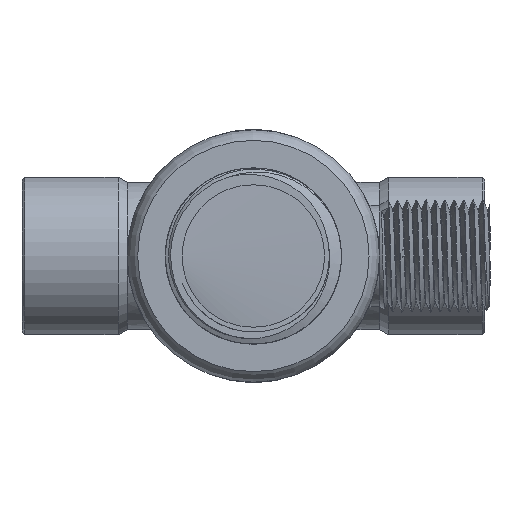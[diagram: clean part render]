
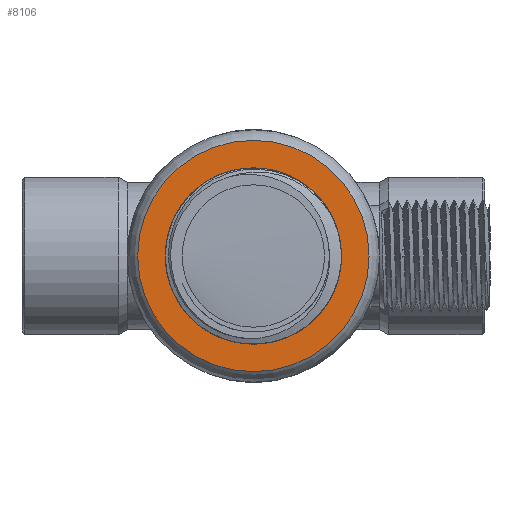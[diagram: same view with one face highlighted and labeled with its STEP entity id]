
A CAD part, left-side view. The second image highlights one B-rep face of the part: STEP entity #8106.
In plain terms, the highlighted planar face has unit normal (-1, 0, 0).
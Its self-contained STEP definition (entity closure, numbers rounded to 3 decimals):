
#253=PLANE('',#8656);
#318=FACE_BOUND('',#1384,.T.);
#324=CIRCLE('',#8157,16.75);
#325=CIRCLE('',#8158,16.75);
#348=CIRCLE('',#8294,22.);
#349=CIRCLE('',#8295,22.);
#904=FACE_OUTER_BOUND('',#1383,.T.);
#1383=EDGE_LOOP('',(#7462,#7463));
#1384=EDGE_LOOP('',(#7464,#7465));
#3049=VERTEX_POINT('',#11169);
#3050=VERTEX_POINT('',#11171);
#3290=VERTEX_POINT('',#16454);
#3291=VERTEX_POINT('',#16456);
#3875=EDGE_CURVE('',#3049,#3050,#324,.T.);
#3876=EDGE_CURVE('',#3050,#3049,#325,.T.);
#4223=EDGE_CURVE('',#3291,#3290,#348,.T.);
#4224=EDGE_CURVE('',#3290,#3291,#349,.T.);
#7462=ORIENTED_EDGE('',*,*,#4223,.T.);
#7463=ORIENTED_EDGE('',*,*,#4224,.T.);
#7464=ORIENTED_EDGE('',*,*,#3876,.F.);
#7465=ORIENTED_EDGE('',*,*,#3875,.F.);
#8106=ADVANCED_FACE('',(#904,#318),#253,.T.);
#8157=AXIS2_PLACEMENT_3D('',#11172,#8752,#8753);
#8158=AXIS2_PLACEMENT_3D('',#11173,#8754,#8755);
#8294=AXIS2_PLACEMENT_3D('',#16457,#9139,#9140);
#8295=AXIS2_PLACEMENT_3D('',#16458,#9141,#9142);
#8656=AXIS2_PLACEMENT_3D('',#30823,#10239,#10240);
#8752=DIRECTION('center_axis',(-1.,0.,0.));
#8753=DIRECTION('ref_axis',(0.,0.,1.));
#8754=DIRECTION('center_axis',(-1.,0.,0.));
#8755=DIRECTION('ref_axis',(0.,0.,1.));
#9139=DIRECTION('center_axis',(-1.,0.,0.));
#9140=DIRECTION('ref_axis',(0.,0.,1.));
#9141=DIRECTION('center_axis',(-1.,0.,0.));
#9142=DIRECTION('ref_axis',(0.,0.,1.));
#10239=DIRECTION('center_axis',(-1.,0.,0.));
#10240=DIRECTION('ref_axis',(0.,0.,1.));
#11169=CARTESIAN_POINT('',(-102.5,16.75,0.));
#11171=CARTESIAN_POINT('',(-102.5,-16.75,0.));
#11172=CARTESIAN_POINT('Origin',(-102.5,0.,
0.));
#11173=CARTESIAN_POINT('Origin',(-102.5,0.,
0.));
#16454=CARTESIAN_POINT('',(-102.5,0.,22.));
#16456=CARTESIAN_POINT('',(-102.5,-22.,0.));
#16457=CARTESIAN_POINT('Origin',(-102.5,0.,
0.));
#16458=CARTESIAN_POINT('Origin',(-102.5,0.,
0.));
#30823=CARTESIAN_POINT('Origin',(-102.5,-16.75,0.));
